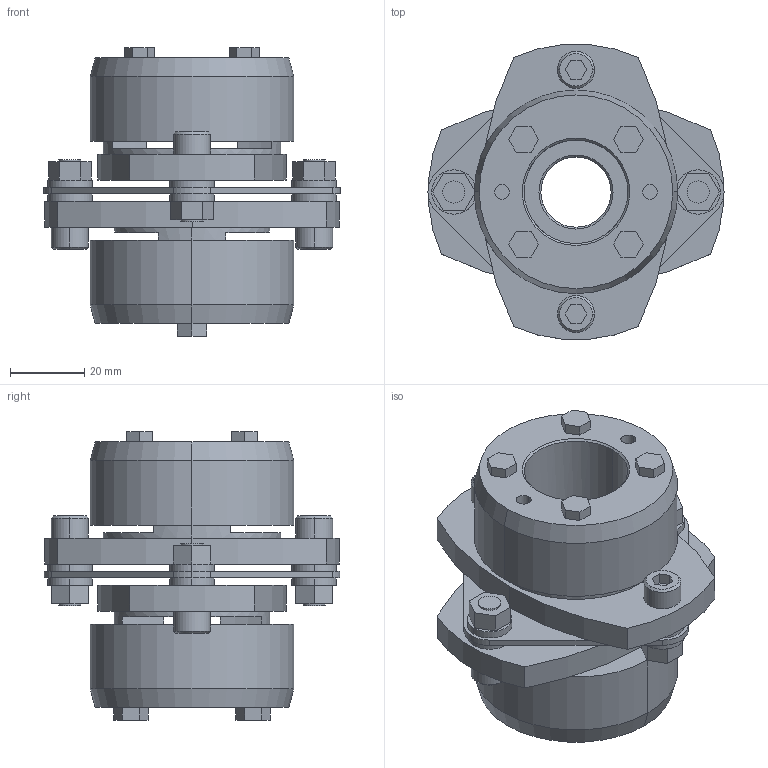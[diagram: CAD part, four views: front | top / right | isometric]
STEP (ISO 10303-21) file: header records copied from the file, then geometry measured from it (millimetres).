
FILE_DESCRIPTION((''),'2;1');
FILE_NAME('LCS-80T7-19×28.stp','2011-09-12T15:24:39',(''),(''),'AutoCAD STEP 2000i','AutoCAD 2000i',', , ');
FILE_SCHEMA(('CONFIG_CONTROL_DESIGN'));
Length unit declared in the file: millimetre
Products named in the file (10): LCS-80T7-19×28; 忣兜1; LC80T7-T028; LC80T7-T024; LC80T7-T022; LC80T7-T019-1; LC80T7-T019; LC80T7-T017-1; LC80T7-T017; LCS80-ITA
Assembly tree (9 placements, depth 2):
  LCS-80T7-19×28
    忣兜1
    LC80T7-T028
    LC80T7-T024
    LC80T7-T022
    LC80T7-T019-1
    LC80T7-T019
    LC80T7-T017-1
    LC80T7-T017
    LCS80-ITA
Bounding box: 80 x 79.95 x 78.05 mm (x, y, z)
Volume: 142807.4 mm3; surface area: 42040.5 mm2
Topology: 1 solids, 1 shells, 232 faces, 568 edges, 372 vertices
Faces by surface type: plane 132, cylinder 80, cone 20
Entity records: 7105 total; most frequent: DIRECTION 1248, CARTESIAN_POINT 1182, ORIENTED_EDGE 1136, EDGE_CURVE 568, AXIS2_PLACEMENT_3D 438, VERTEX_POINT 372, VECTOR 372, LINE 372
